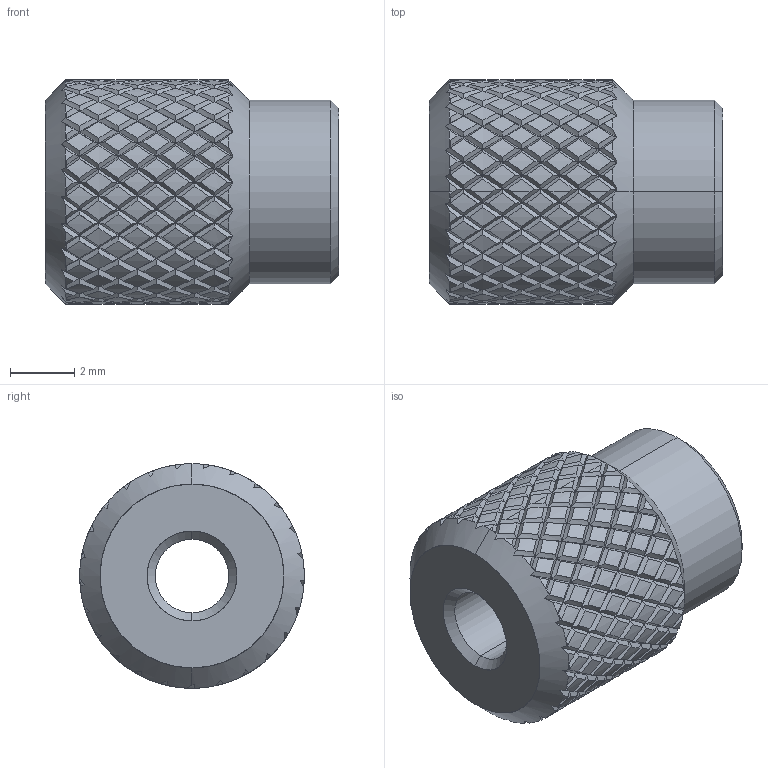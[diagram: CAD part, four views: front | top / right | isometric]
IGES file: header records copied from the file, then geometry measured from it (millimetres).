
Start section: SolidWorks IGES file using analytic representation for surfaces
Global section: file name: C:\Users\workpc\Desktop\KMA Solidworks\Metric Knobs\KBM3-25.IGS; native system: SolidWorks 2013; preprocessor: SolidWorks 2013; author: workpc; date: 130821.110518; units: inch
Bounding box: 9.14 x 6.99 x 6.99 mm (x, y, z)
Surface area: 344.5 mm2 (no closed solid volume)
Topology: 0 solids, 0 shells, 1174 faces, 5261 edges, 5261 vertices
Faces by surface type: bspline 928, revolution 246
